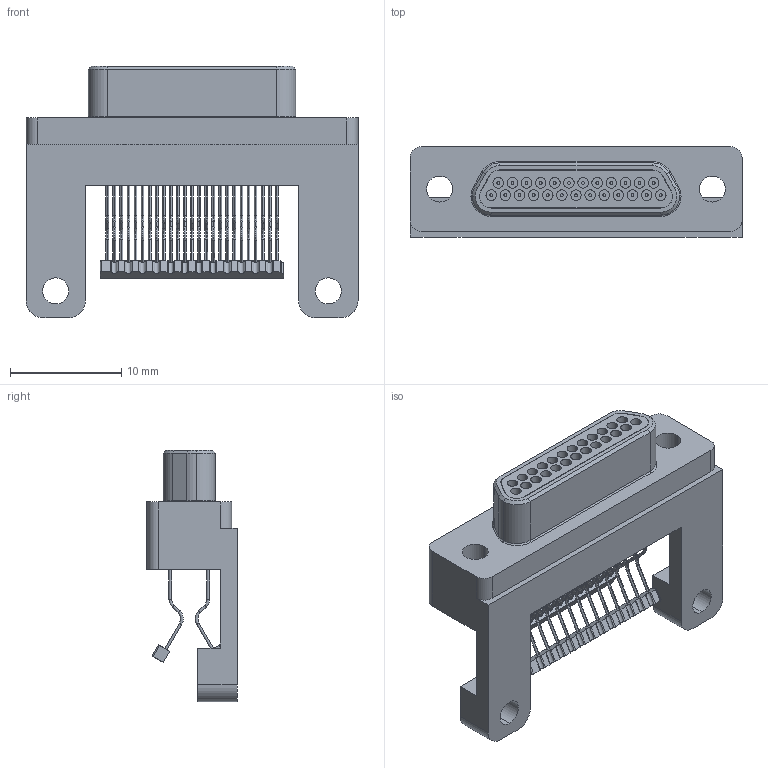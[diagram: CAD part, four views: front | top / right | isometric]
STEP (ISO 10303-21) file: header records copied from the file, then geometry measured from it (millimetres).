
FILE_DESCRIPTION (( 'STEP AP214' ), '1' );
FILE_NAME ('A98066-025 REV A.STEP', '2021-01-22T21:38:42', ( '' ), ( '' ), 'SwSTEP 2.0', 'SolidWorks 2019', '' );
FILE_SCHEMA (( 'AUTOMOTIVE_DESIGN' ));
Length unit declared in the file: inch
Products named in the file (1): A98066-025 REV A
Bounding box: 29.84 x 8.14 x 22.61 mm (x, y, z)
Volume: 1921.2 mm3; surface area: 2997.9 mm2
Topology: 1 solids, 1 shells, 941 faces, 2226 edges, 1376 vertices
Faces by surface type: cylinder 464, plane 263, torus 105, cone 55, bspline 54
Entity records: 42090 total; most frequent: CARTESIAN_POINT 7576, DIRECTION 4923, ORIENTED_EDGE 4440, EDGE_CURVE 2220, AXIS2_PLACEMENT_3D 1927, VERTEX_POINT 1376, EDGE_LOOP 1090, LINE 1069
